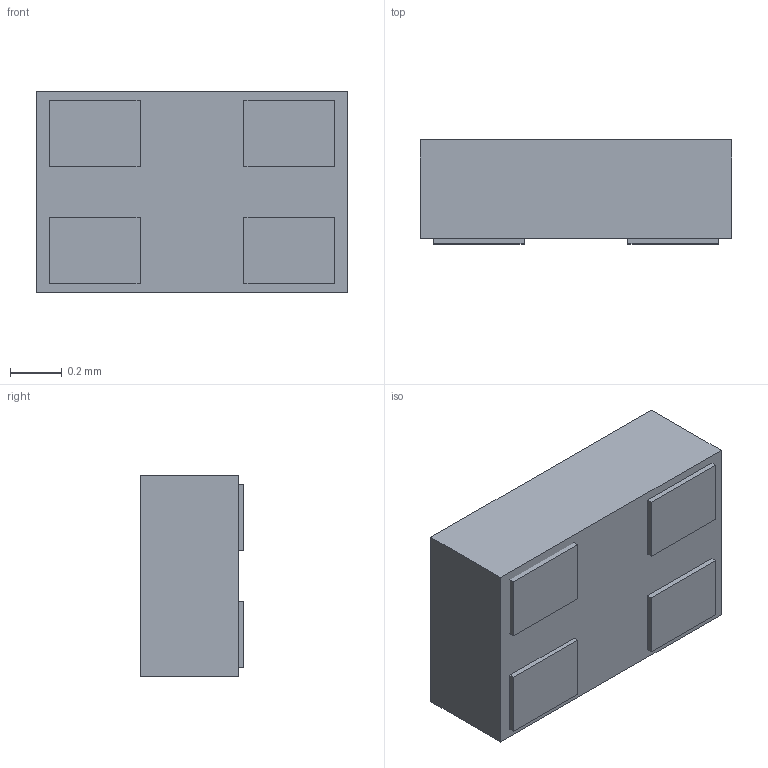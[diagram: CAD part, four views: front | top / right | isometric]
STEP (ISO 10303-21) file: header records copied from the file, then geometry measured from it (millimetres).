
FILE_DESCRIPTION (( 'STEP AP214' ), '1' );
FILE_NAME ( 'DIODFN120X77X40-4.STEP', '2014-04-11T12:31:19', ( '' ), ( '' ), 'FPX Expert 2013', 'PCB Libraries', '' );
FILE_SCHEMA (( 'AUTOMOTIVE_DESIGN' ));
Length unit declared in the file: millimetre
Products named in the file (1): DIODFN120X77X40-4
Bounding box: 1.2 x 0.4 x 0.78 mm (x, y, z)
Volume: 0.4 mm3; surface area: 4.2 mm2
Topology: 5 solids, 5 shells, 30 faces, 60 edges, 40 vertices
Faces by surface type: plane 30
Entity records: 918 total; most frequent: CARTESIAN_POINT 131, DIRECTION 122, ORIENTED_EDGE 120, VECTOR 60, LINE 60, EDGE_CURVE 60, VERTEX_POINT 40, STYLED_ITEM 36
